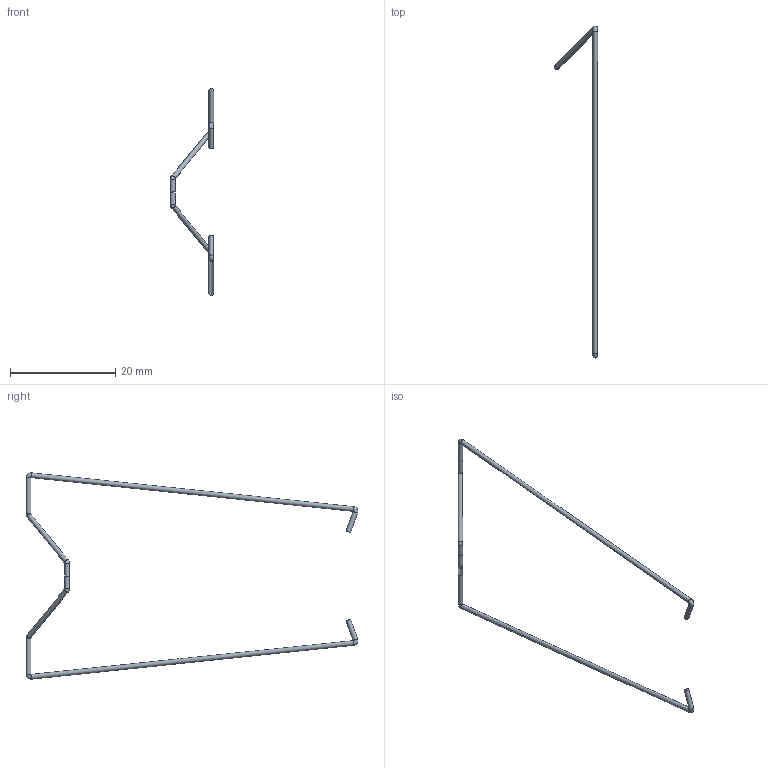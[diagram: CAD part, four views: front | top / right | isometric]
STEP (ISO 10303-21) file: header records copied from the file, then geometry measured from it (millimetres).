
FILE_DESCRIPTION(('STEP AP214'),'2;1');
FILE_NAME('09271----skin-finito_bene.stp','2010-08-06T15:23:51',(''),(''),'2007.1.106','THINKDESIGN','');
FILE_SCHEMA(('AUTOMOTIVE_DESIGN'));
Length unit declared in the file: millimetre
Products named in the file (1): None
Bounding box: 8.25 x 63.17 x 39.3 mm (x, y, z)
Surface area: 514.1 mm2 (no closed solid volume)
Topology: 0 solids, 0 shells, 20 faces, 58 edges, 40 vertices
Faces by surface type: bspline 18, plane 2
Entity records: 1953 total; most frequent: CARTESIAN_POINT 1722, STYLED_ITEM 20, PRESENTATION_STYLE_ASSIGNMENT 20, SURFACE_STYLE_USAGE 20, SURFACE_SIDE_STYLE 20, SURFACE_STYLE_FILL_AREA 20, FILL_AREA_STYLE 20, FILL_AREA_STYLE_COLOUR 20
